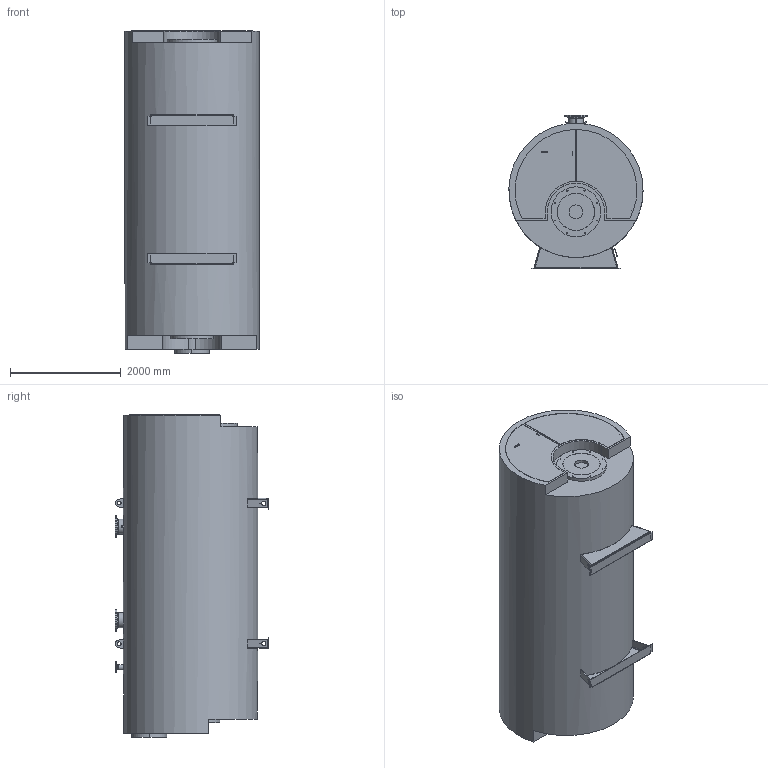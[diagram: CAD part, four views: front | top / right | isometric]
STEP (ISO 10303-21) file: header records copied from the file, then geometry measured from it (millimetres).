
FILE_DESCRIPTION(('TFLEX Exchange Step'),'2;1');
FILE_NAME('M62D006_7550652_T002.stp', '2024-08-07T15:10:02+03:00',('kort'),('Unknown organisation'),'TFLEX Exchange 2024.2','T-FLEX CAD','Unknown authorisation');
FILE_SCHEMA( ('AP242_MANAGED_MODEL_BASED_3D_ENGINEERING_MIM_LF {1 0 10303 442 1 1 4 }') );
Length unit declared in the file: millimetre
Products named in the file (1): 7550652_Grundkessel M62D006_T002
Bounding box: 2417.64 x 2765 x 5814.2 mm (x, y, z)
Volume: 25578190376.6 mm3; surface area: 57673558.9 mm2
Topology: 25 solids, 34 shells, 614 faces, 1572 edges, 1073 vertices
Faces by surface type: plane 333, cylinder 163, bspline 95, torus 12, cone 11
Full cylindrical faces by diameter (mm): 1 x1, 2.2 x4, 3.2 x4, 3.3 x4, 4 x4, 6.5 x4, 13 x4, 14 x8, 18 x8, 18.63 x2, 26 x24, 26.9 x2, 70 x2, 78.9 x1, 80 x4, 82.5 x1, 88.9 x1, 138 x1, 141 x1, 200 x1, 250 x1, 253 x2, 260.4 x2, 273 x2, 320 x2, 405 x2, 760 x1, 898.723 x1, 2419 x1
Entity records: 27655 total; most frequent: CARTESIAN_POINT 12340, ORIENTED_EDGE 3142, DIRECTION 2809, EDGE_CURVE 1571, VERTEX_POINT 1073, AXIS2_PLACEMENT_3D 972, VECTOR 865, LINE 865
